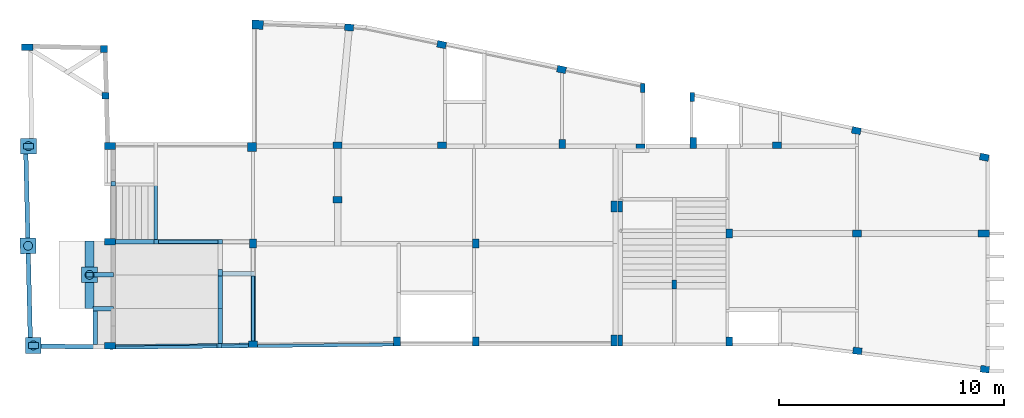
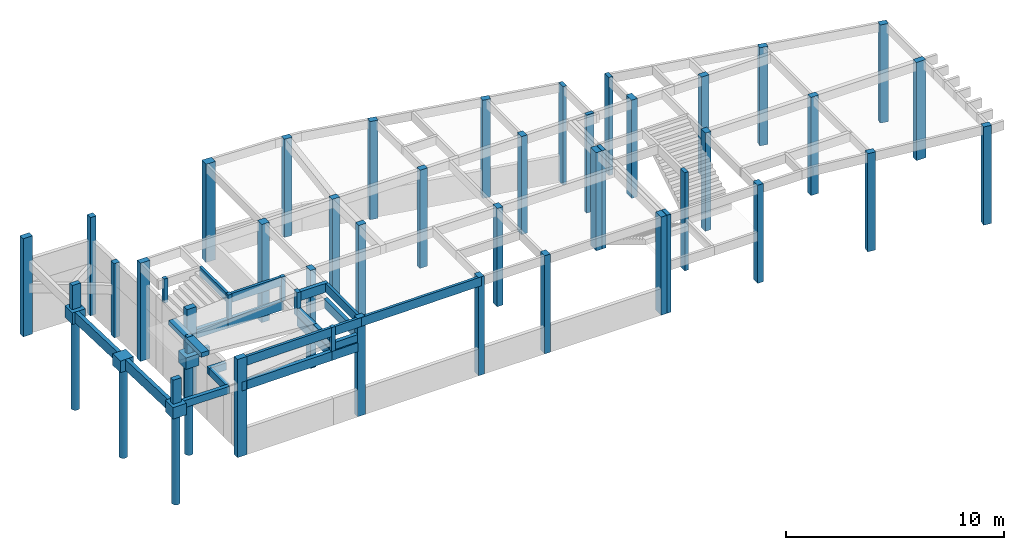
# One storey, part 1 of 8: 46 columns, 24 beams, 4 footings, 4 piles.
"""IFC4 building model written with IfcOpenShell, lengths in centimetres."""

from ifc_helpers import new_model, si_unit, derived_unit, frame, origin, origin_with_axes, origin_2d_with_axis, place, context, project, spatial, rectangle, circle, extrude, clip, halfspace, faceted_brep, material, element, save


model = new_model("IFC4")

# Units and contexts
model_context = context("Model", 3, precision=1e-05, world=origin_with_axes(), identifier="Body")
ifc_project = project(units=[si_unit("LENGTHUNIT", "METRE", prefix="CENTI"), si_unit("VOLUMEUNIT", "CUBIC_METRE"), si_unit("AREAUNIT", "SQUARE_METRE"), si_unit("POWERUNIT", "WATT"), si_unit("LUMINOUSFLUXUNIT", "LUMEN"), si_unit("ELECTRICCURRENTUNIT", "AMPERE"), si_unit("PRESSUREUNIT", "PASCAL", prefix="KILO"), si_unit("MASSUNIT", "GRAM", prefix="KILO"), si_unit("PLANEANGLEUNIT", "RADIAN"), derived_unit("VOLUMETRICFLOWRATEUNIT", [(si_unit("LENGTHUNIT", "METRE"), 3), (si_unit("TIMEUNIT", "SECOND"), -1)])], contexts=[model_context])

# Site, building, storey
site_placement = place(None, origin_with_axes())
site = spatial("IfcSite", under=ifc_project, at=site_placement)
building_placement = place(site_placement, origin())
building = spatial("IfcBuilding", under=site, at=building_placement)
placement = place(building_placement, origin_with_axes())
storey_placement = place(placement, frame((0.0, 0.0, 550.0), z_axis=(0.0, 0.0, 1.0), x_axis=(1.0, 0.0, 0.0)))
storey = spatial("IfcBuildingStorey", under=building, at=storey_placement, Name="TÉRREO", CompositionType="ELEMENT", Elevation=550.0)

# Footings
ifc_material = material(Name="Concreto")
for number, where, z_axis, x_axis, name in (
    (1, (30.0, -454.65, -135.0), (0.0, 0.0, 1.0), (1.0, 0.0, 0.0), "P.MURO3"),
    (2, (51.63, -1341.4, -135.0), (0.0, 0.0, 1.0), (1.0, 0.0, 0.0), "P.MURO4"),
):
    element("IfcFooting", number, at=place(storey_placement, frame(where, z_axis=z_axis, x_axis=x_axis)), inside=storey, material=ifc_material, Name=name, context=model_context, shape_type="SolidModel", body=[
        faceted_brep([(35.0, 35.0, -65.0), (35.0, -35.0, -65.0), (-35.0, -35.0, -65.0), (-35.0, 35.0, -65.0), (-35.0, 35.0, 0.0), (-35.0, -35.0, 0.0), (35.0, -35.0, 0.0), (35.0, 35.0, 0.0)], [[[0, 1, 2, 3]], [[4, 5, 6, 7]], [[4, 3, 5]], [[3, 2, 5]], [[5, 2, 6]], [[2, 1, 6]], [[6, 1, 7]], [[1, 0, 7]], [[7, 0, 4]], [[0, 3, 4]]]),
    ])
footing_1_placement = place(storey_placement, frame((28.17, -898.03, -135.0), z_axis=(0.0, 0.0, 1.0), x_axis=(1.0, 0.0, 0.0)))
element("IfcFooting", 3, at=footing_1_placement, inside=storey, material=ifc_material, Name="P.MURO6", context=model_context, shape_type="SolidModel", body=[
    faceted_brep([(-35.844678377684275, 34.13442590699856, -65.0), (34.134425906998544, 35.84467837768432, -65.0), (35.844678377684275, -34.13442590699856, -65.0), (-34.13442590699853, -35.84467837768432, -65.0), (-34.13442590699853, -35.84467837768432, 0.0), (35.844678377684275, -34.13442590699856, 0.0), (34.134425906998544, 35.84467837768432, 0.0), (-35.844678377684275, 34.13442590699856, 0.0)], [[[0, 1, 2, 3]], [[4, 5, 6, 7]], [[4, 3, 5]], [[3, 2, 5]], [[5, 2, 6]], [[2, 1, 6]], [[6, 1, 7]], [[1, 0, 7]], [[7, 0, 4]], [[0, 3, 4]]]),
])
footing_2_placement = place(storey_placement, frame((301.6, -1027.35, -135.0), z_axis=(0.0, 0.0, 1.0), x_axis=(1.0, 0.0, 0.0)))
element("IfcFooting", 4, at=footing_2_placement, inside=storey, material=ifc_material, Name="P.RAMPA5", context=model_context, shape_type="SolidModel", body=[
    faceted_brep([(35.0, 35.0, -65.0), (35.0, -35.0, -65.0), (-35.0, -35.0, -65.0), (-35.0, 35.0, -65.0), (-35.0, 35.0, 0.0), (-35.0, -35.0, 0.0), (35.0, -35.0, 0.0), (35.0, 35.0, 0.0)], [[[0, 1, 2, 3]], [[4, 5, 6, 7]], [[4, 3, 5]], [[3, 2, 5]], [[5, 2, 6]], [[2, 1, 6]], [[6, 1, 7]], [[1, 0, 7]], [[7, 0, 4]], [[0, 3, 4]]]),
])

# Piles
for number, where, z_axis, x_axis, name in (
    (5, (30.0, -454.65, -185.0), (0.0, 0.0, 1.0), (1.0, 0.0, 0.0), "E.MURO3-1"),
    (6, (51.63, -1341.4, -185.0), (0.0, 0.0, 1.0), (1.0, 0.0, 0.0), "E.MURO4-1"),
    (7, (28.17, -898.03, -185.0), (0.0, 0.0, 1.0), (1.0, 0.0, 0.0), "E.MURO6-1"),
    (8, (301.6, -1027.35, -185.0), (0.0, 0.0, 1.0), (1.0, 0.0, 0.0), "E.RAMPA5-1"),
):
    element("IfcPile", number, at=place(storey_placement, frame(where, z_axis=z_axis, x_axis=x_axis)), inside=storey, material=ifc_material, Name=name, context=model_context, shape_type="SweptSolid", body=[
        extrude(circle(Radius=20.0, at=origin_2d_with_axis()), frame((0.0, 0.0, -515.0), z_axis=(0.0, 0.0, 1.0), x_axis=(1.0, 0.0, 0.0)), (0.0, 0.0, 1.0), 515.0),
    ])

# Columns
column_1_placement = place(storey_placement, frame((25.0, -15.0, 0.0), z_axis=(0.0, 0.0, 1.0), x_axis=(1.0, 0.0, 0.0)))
element("IfcColumn", 9, at=column_1_placement, inside=storey, material=ifc_material, Name="P.MURO1", context=model_context, shape_type="SolidModel", body=[
    extrude(rectangle(XDim=30.0, YDim=50.0, at=origin_2d_with_axis()), frame((0.0, 0.0, 0.0), z_axis=(0.0, 0.0, 1.0), x_axis=(0.0, -1.0, 0.0)), (0.0, 0.0, -1.0), 550.0),
])
column_2_placement = place(storey_placement, frame((365.95, -22.8, 0.0), z_axis=(0.0, 0.0, 1.0), x_axis=(1.0, 0.0, 0.0)))
element("IfcColumn", 10, at=column_2_placement, inside=storey, material=ifc_material, Name="P.MURO2", context=model_context, shape_type="SolidModel", body=[
    extrude(rectangle(XDim=30.0, YDim=30.0, at=origin_2d_with_axis()), origin_with_axes(), (0.0, 0.0, -1.0), 550.0),
])
for number, where, z_axis, x_axis, name in (
    (11, (30.0, -454.65, 0.0), (0.0, 0.0, 1.0), (1.0, 0.0, 0.0), "P.MURO3"),
    (12, (51.63, -1341.4, 0.0), (0.0, 0.0, 1.0), (1.0, 0.0, 0.0), "P.MURO4"),
):
    element("IfcColumn", number, at=place(storey_placement, frame(where, z_axis=z_axis, x_axis=x_axis)), inside=storey, material=ifc_material, Name=name, context=model_context, shape_type="SolidModel", body=[
        extrude(rectangle(XDim=25.0, YDim=45.0, at=origin_2d_with_axis()), frame((0.0, 0.0, 0.0), z_axis=(0.0, 0.0, 1.0), x_axis=(0.0, -1.0, 0.0)), (0.0, 0.0, -1.0), 135.0),
    ])
column_3_placement = place(storey_placement, frame((372.23, -229.98, -135.0), z_axis=(0.0, 0.0, 1.0), x_axis=(1.0, 0.0, 0.0)))
element("IfcColumn", 13, at=column_3_placement, inside=storey, material=ifc_material, Name="P.MURO5", context=model_context, shape_type="SolidModel", body=[
    extrude(rectangle(XDim=30.0, YDim=30.0, at=origin_2d_with_axis()), frame((0.0, 0.0, 0.0), z_axis=(0.0, 0.0, 1.0), x_axis=(-1.0, 0.0, 0.0)), (0.0, 0.0, -1.0), 415.0),
])
for number, where, z_axis, x_axis, name in (
    (14, (599.5, -880.25, 0.0), (0.0, 0.0, 1.0), (1.0, 0.0, 0.0), "P.RAMPA1"),
    (15, (882.6, -880.25, 0.0), (0.0, 0.0, 1.0), (1.0, 0.0, 0.0), "P.RAMPA2"),
):
    element("IfcColumn", number, at=place(storey_placement, frame(where, z_axis=z_axis, x_axis=x_axis)), inside=storey, material=ifc_material, Name=name, context=model_context, shape_type="SolidModel", body=[
        extrude(rectangle(XDim=20.0, YDim=20.0, at=origin_2d_with_axis()), frame((0.0, 0.0, 0.0), z_axis=(0.0, 0.0, 1.0), x_axis=(0.0, -1.0, 0.0)), (0.0, 0.0, -1.0), 135.0),
    ])
column_4_placement = place(storey_placement, frame((882.6, -1017.9, 0.0), z_axis=(0.0, 0.0, 1.0), x_axis=(1.0, 0.0, 0.0)))
element("IfcColumn", 16, at=column_4_placement, inside=storey, material=ifc_material, Name="P.RAMPA3", context=model_context, shape_type="SolidModel", body=[
    extrude(rectangle(XDim=20.0, YDim=30.0, at=origin_2d_with_axis()), origin_with_axes(), (0.0, 0.0, -1.0), 135.0),
])
column_5_placement = place(storey_placement, frame((879.5752821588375, -1343.0605483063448, 0.0), z_axis=(0.0, 0.0, 1.0), x_axis=(1.0, 0.0, 0.0)))
element("IfcColumn", 17, at=column_5_placement, inside=storey, material=ifc_material, Name="P.RAMPA4", context=model_context, shape_type="SolidModel", body=[
    extrude(rectangle(XDim=20.0, YDim=20.0, at=origin_2d_with_axis()), frame((0.0, 0.0, 0.0), z_axis=(0.0, 0.0, 1.0), x_axis=(-0.010471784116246, 1.0, 0.0)), (0.0, 0.0, -1.0), 135.0),
])
column_6_placement = place(storey_placement, frame((301.6, -1027.35, -42.0), z_axis=(0.0, 0.0, 1.0), x_axis=(1.0, 0.0, 0.0)))
element("IfcColumn", 18, at=column_6_placement, inside=storey, material=ifc_material, Name="P.RAMPA5", context=model_context, shape_type="SolidModel", body=[
    extrude(rectangle(XDim=20.0, YDim=30.0, at=origin_2d_with_axis()), frame((0.0, 0.0, 0.0), z_axis=(0.0, 0.0, 1.0), x_axis=(0.0, -1.0, 0.0)), (0.0, 0.0, -1.0), 93.0),
])
column_7_placement = place(storey_placement, frame((1049.7503356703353, 85.74733940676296, 0.0), z_axis=(0.0, 0.0, 1.0), x_axis=(1.0, 0.0, 0.0)))
element("IfcColumn", 19, at=column_7_placement, inside=storey, material=ifc_material, Name="P1", context=model_context, shape_type="SolidModel", body=[
    extrude(rectangle(XDim=40.0, YDim=50.0, at=origin_2d_with_axis()), frame((0.0, 0.0, 0.0), z_axis=(0.0, 0.0, 1.0), x_axis=(-0.036643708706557, -0.999328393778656, 0.0)), (0.0, 0.0, -1.0), 550.0),
])
for number, where, z_axis, x_axis, name in (
    (20, (1406.0, -450.9, 0.0), (0.0, 0.0, 1.0), (1.0, 0.0, 0.0), "P10"),
    (21, (1871.0, -450.9, 0.0), (0.0, 0.0, 1.0), (1.0, 0.0, 0.0), "P11"),
):
    element("IfcColumn", number, at=place(storey_placement, frame(where, z_axis=z_axis, x_axis=x_axis)), inside=storey, material=ifc_material, Name=name, context=model_context, shape_type="SolidModel", body=[
        extrude(rectangle(XDim=30.0, YDim=40.0, at=origin_2d_with_axis()), frame((0.0, 0.0, 0.0), z_axis=(0.0, 0.0, 1.0), x_axis=(0.0, -1.0, 0.0)), (0.0, 0.0, -1.0), 550.0),
    ])
column_8_placement = place(storey_placement, frame((2404.5, -445.9, 0.0), z_axis=(0.0, 0.0, 1.0), x_axis=(1.0, 0.0, 0.0)))
element("IfcColumn", 22, at=column_8_placement, inside=storey, material=ifc_material, Name="P12", context=model_context, shape_type="SolidModel", body=[
    extrude(rectangle(XDim=30.0, YDim=40.0, at=origin_2d_with_axis()), origin_with_axes(), (0.0, 0.0, -1.0), 550.0),
])
column_9_placement = place(storey_placement, frame((2753.0, -455.9, 0.0), z_axis=(0.0, 0.0, 1.0), x_axis=(1.0, 0.0, 0.0)))
element("IfcColumn", 23, at=column_9_placement, inside=storey, material=ifc_material, Name="P13", context=model_context, shape_type="SolidModel", body=[
    extrude(rectangle(XDim=20.0, YDim=40.0, at=origin_2d_with_axis()), frame((0.0, 0.0, 0.0), z_axis=(0.0, 0.0, 1.0), x_axis=(0.0, -1.0, 0.0)), (0.0, 0.0, -1.0), 550.0),
])
column_10_placement = place(storey_placement, frame((2988.0, -440.9, 0.0), z_axis=(0.0, 0.0, 1.0), x_axis=(1.0, 0.0, 0.0)))
element("IfcColumn", 24, at=column_10_placement, inside=storey, material=ifc_material, Name="P14", context=model_context, shape_type="SolidModel", body=[
    extrude(rectangle(XDim=30.0, YDim=50.0, at=origin_2d_with_axis()), origin_with_axes(), (0.0, 0.0, -1.0), 550.0),
])
column_11_placement = place(storey_placement, frame((3361.6, -450.9, 0.0), z_axis=(0.0, 0.0, 1.0), x_axis=(1.0, 0.0, 0.0)))
element("IfcColumn", 25, at=column_11_placement, inside=storey, material=ifc_material, Name="P15", context=model_context, shape_type="SolidModel", body=[
    extrude(rectangle(XDim=30.0, YDim=40.0, at=origin_2d_with_axis()), frame((0.0, 0.0, 0.0), z_axis=(0.0, 0.0, 1.0), x_axis=(0.0, -1.0, 0.0)), (0.0, 0.0, -1.0), 550.0),
])
column_12_placement = place(storey_placement, frame((4282.95521144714, -504.19308979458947, 0.0), z_axis=(0.0, 0.0, 1.0), x_axis=(1.0, 0.0, 0.0)))
element("IfcColumn", 26, at=column_12_placement, inside=storey, material=ifc_material, Name="P16", context=model_context, shape_type="SolidModel", body=[
    extrude(rectangle(XDim=30.0, YDim=40.0, at=origin_2d_with_axis()), frame((0.0, 0.0, 0.0), z_axis=(0.0, 0.0, 1.0), x_axis=(-0.204496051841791, -0.978867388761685, 0.0)), (0.0, 0.0, -1.0), 550.0),
])
column_13_placement = place(storey_placement, frame((407.75, -622.85, 0.0), z_axis=(0.0, 0.0, 1.0), x_axis=(1.0, 0.0, 0.0)))
element("IfcColumn", 27, at=column_13_placement, inside=storey, material=ifc_material, Name="P17", context=model_context, shape_type="SolidModel", body=[
    extrude(rectangle(XDim=20.0, YDim=20.0, at=origin_2d_with_axis()), origin_with_axes(), (0.0, 0.0, -1.0), 135.0),
])
column_14_placement = place(storey_placement, frame((1406.0, -692.9, 0.0), z_axis=(0.0, 0.0, 1.0), x_axis=(1.0, 0.0, 0.0)))
element("IfcColumn", 28, at=column_14_placement, inside=storey, material=ifc_material, Name="P18", context=model_context, shape_type="SolidModel", body=[
    extrude(rectangle(XDim=30.0, YDim=40.0, at=origin_2d_with_axis()), frame((0.0, 0.0, 0.0), z_axis=(0.0, 0.0, 1.0), x_axis=(0.0, 1.0, 0.0)), (0.0, 0.0, -1.0), 550.0),
])
column_15_placement = place(storey_placement, frame((2636.6, -723.1, 0.0), z_axis=(0.0, 0.0, 1.0), x_axis=(1.0, 0.0, 0.0)))
element("IfcColumn", 29, at=column_15_placement, inside=storey, material=ifc_material, Name="P19", context=model_context, shape_type="SolidModel", body=[
    extrude(rectangle(XDim=30.0, YDim=50.0, at=origin_2d_with_axis()), origin_with_axes(), (0.0, 0.0, -1.0), 550.0),
])
column_16_placement = place(storey_placement, frame((1456.6687461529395, 73.3548205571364, 0.0), z_axis=(0.0, 0.0, 1.0), x_axis=(1.0, 0.0, 0.0)))
element("IfcColumn", 30, at=column_16_placement, inside=storey, material=ifc_material, Name="P2", context=model_context, shape_type="SolidModel", body=[
    extrude(rectangle(XDim=30.0, YDim=40.0, at=origin_2d_with_axis()), frame((0.0, 0.0, 0.0), z_axis=(0.0, 0.0, 1.0), x_axis=(-0.085416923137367, -0.996345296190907, 0.0)), (0.0, 0.0, -1.0), 550.0),
])
column_17_placement = place(storey_placement, frame((2663.6, -723.1, 0.0), z_axis=(0.0, 0.0, 1.0), x_axis=(1.0, 0.0, 0.0)))
element("IfcColumn", 31, at=column_17_placement, inside=storey, material=ifc_material, Name="P20", context=model_context, shape_type="SolidModel", body=[
    extrude(rectangle(XDim=20.0, YDim=50.0, at=origin_2d_with_axis()), frame((0.0, 0.0, 0.0), z_axis=(0.0, 0.0, 1.0), x_axis=(-1.0, 0.0, 0.0)), (0.0, 0.0, -1.0), 550.0),
])
column_18_placement = place(storey_placement, frame((392.75, -879.9, -1.45), z_axis=(0.0, 0.0, 1.0), x_axis=(1.0, 0.0, 0.0)))
element("IfcColumn", 32, at=column_18_placement, inside=storey, material=ifc_material, Name="P21", context=model_context, shape_type="SolidModel", body=[
    extrude(rectangle(XDim=30.0, YDim=50.0, at=origin_2d_with_axis()), frame((0.0, 0.0, 0.0), z_axis=(0.0, 0.0, 1.0), x_axis=(0.0, -1.0, 0.0)), (0.0, 0.0, -1.0), 548.55),
])
column_19_placement = place(storey_placement, frame((1029.5, -888.4, 0.0), z_axis=(0.0, 0.0, 1.0), x_axis=(1.0, 0.0, 0.0)))
element("IfcColumn", 33, at=column_19_placement, inside=storey, material=ifc_material, Name="P22", context=model_context, shape_type="SolidModel", body=[
    extrude(rectangle(XDim=30.0, YDim=40.0, at=origin_2d_with_axis()), frame((0.0, 0.0, 0.0), z_axis=(0.0, 0.0, 1.0), x_axis=(1.0, -0.003490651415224, 0.0)), (0.0, 0.0, -1.0), 550.0),
])
for number, where, z_axis, x_axis, name in (
    (34, (2019.6, -888.4, 0.0), (0.0, 0.0, 1.0), (1.0, 0.0, 0.0), "P23"),
    (35, (3148.6, -843.6, 0.0), (0.0, 0.0, 1.0), (1.0, 0.0, 0.0), "P24"),
):
    element("IfcColumn", number, at=place(storey_placement, frame(where, z_axis=z_axis, x_axis=x_axis)), inside=storey, material=ifc_material, Name=name, context=model_context, shape_type="SolidModel", body=[
        extrude(rectangle(XDim=30.0, YDim=40.0, at=origin_2d_with_axis()), origin_with_axes(), (0.0, 0.0, -1.0), 550.0),
    ])
column_20_placement = place(storey_placement, frame((3716.6, -843.1, 0.0), z_axis=(0.0, 0.0, 1.0), x_axis=(1.0, 0.0, 0.0)))
element("IfcColumn", 36, at=column_20_placement, inside=storey, material=ifc_material, Name="P25", context=model_context, shape_type="SolidModel", body=[
    extrude(rectangle(XDim=30.0, YDim=40.0, at=origin_2d_with_axis()), frame((0.0, 0.0, 0.0), z_axis=(0.0, 0.0, 1.0), x_axis=(0.0, -1.0, 0.0)), (0.0, 0.0, -1.0), 550.0),
])
column_21_placement = place(storey_placement, frame((4280.6, -843.1, 0.0), z_axis=(0.0, 0.0, 1.0), x_axis=(1.0, 0.0, 0.0)))
element("IfcColumn", 37, at=column_21_placement, inside=storey, material=ifc_material, Name="P26", context=model_context, shape_type="SolidModel", body=[
    extrude(rectangle(XDim=30.0, YDim=50.0, at=origin_2d_with_axis()), frame((0.0, 0.0, 0.0), z_axis=(0.0, 0.0, 1.0), x_axis=(0.0, -1.0, 0.0)), (0.0, 0.0, -1.0), 550.0),
])
column_22_placement = place(storey_placement, frame((2903.6, -1070.1, 0.0), z_axis=(0.0, 0.0, 1.0), x_axis=(1.0, 0.0, 0.0)))
element("IfcColumn", 38, at=column_22_placement, inside=storey, material=ifc_material, Name="P27", context=model_context, shape_type="SolidModel", body=[
    extrude(rectangle(XDim=20.0, YDim=40.0, at=origin_2d_with_axis()), frame((0.0, 0.0, 0.0), z_axis=(0.0, 0.0, 1.0), x_axis=(-1.0, 0.0, 0.0)), (0.0, 0.0, -1.0), 550.0),
])
column_23_placement = place(storey_placement, frame((392.75, -1343.2, 0.0), z_axis=(0.0, 0.0, 1.0), x_axis=(1.0, 0.0, 0.0)))
element("IfcColumn", 39, at=column_23_placement, inside=storey, material=ifc_material, Name="P28", context=model_context, shape_type="SolidModel", body=[
    extrude(rectangle(XDim=30.0, YDim=50.0, at=origin_2d_with_axis()), frame((0.0, 0.0, 0.0), z_axis=(0.0, 0.0, 1.0), x_axis=(0.0, -1.0, 0.0)), (0.0, 0.0, -1.0), 550.0),
])
column_24_placement = place(storey_placement, frame((1029.7, -1336.0, 0.0), z_axis=(0.0, 0.0, 1.0), x_axis=(1.0, 0.0, 0.0)))
element("IfcColumn", 40, at=column_24_placement, inside=storey, material=ifc_material, Name="P29", context=model_context, shape_type="SolidModel", body=[
    extrude(rectangle(XDim=30.0, YDim=40.0, at=origin_2d_with_axis()), frame((0.0, 0.0, 0.0), z_axis=(0.0, 0.0, 1.0), x_axis=(0.0, -1.0, 0.0)), (0.0, 0.0, -1.0), 550.0),
])
column_25_placement = place(storey_placement, frame((1868.373734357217, -3.042596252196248, 0.0), z_axis=(0.0, 0.0, 1.0), x_axis=(1.0, 0.0, 0.0)))
element("IfcColumn", 41, at=column_25_placement, inside=storey, material=ifc_material, Name="P3", context=model_context, shape_type="SolidModel", body=[
    extrude(rectangle(XDim=30.0, YDim=40.0, at=origin_2d_with_axis()), frame((0.0, 0.0, 0.0), z_axis=(0.0, 0.0, 1.0), x_axis=(-0.202787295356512, -0.979222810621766, 0.0)), (0.0, 0.0, -1.0), 550.0),
])
column_26_placement = place(storey_placement, frame((1669.6, -1324.1, 0.0), z_axis=(0.0, 0.0, 1.0), x_axis=(1.0, 0.0, 0.0)))
element("IfcColumn", 42, at=column_26_placement, inside=storey, material=ifc_material, Name="P30", context=model_context, shape_type="SolidModel", body=[
    extrude(rectangle(XDim=30.0, YDim=40.0, at=origin_2d_with_axis()), frame((0.0, 0.0, 0.0), z_axis=(0.0, 0.0, 1.0), x_axis=(-1.0, 0.0, 0.0)), (0.0, 0.0, -1.0), 550.0),
])
column_27_placement = place(storey_placement, frame((2019.6, -1324.1, 0.0), z_axis=(0.0, 0.0, 1.0), x_axis=(1.0, 0.0, 0.0)))
element("IfcColumn", 43, at=column_27_placement, inside=storey, material=ifc_material, Name="P31", context=model_context, shape_type="SolidModel", body=[
    extrude(rectangle(XDim=30.0, YDim=40.0, at=origin_2d_with_axis()), origin_with_axes(), (0.0, 0.0, -1.0), 550.0),
])
column_28_placement = place(storey_placement, frame((2636.6, -1319.1, 0.0), z_axis=(0.0, 0.0, 1.0), x_axis=(1.0, 0.0, 0.0)))
element("IfcColumn", 44, at=column_28_placement, inside=storey, material=ifc_material, Name="P32", context=model_context, shape_type="SolidModel", body=[
    extrude(rectangle(XDim=30.0, YDim=50.0, at=origin_2d_with_axis()), frame((0.0, 0.0, 0.0), z_axis=(0.0, 0.0, 1.0), x_axis=(-1.0, 0.0, 0.0)), (0.0, 0.0, -1.0), 550.0),
])
column_29_placement = place(storey_placement, frame((2663.6, -1319.1, 0.0), z_axis=(0.0, 0.0, 1.0), x_axis=(1.0, 0.0, 0.0)))
element("IfcColumn", 45, at=column_29_placement, inside=storey, material=ifc_material, Name="P33", context=model_context, shape_type="SolidModel", body=[
    extrude(rectangle(XDim=20.0, YDim=50.0, at=origin_2d_with_axis()), origin_with_axes(), (0.0, 0.0, -1.0), 550.0),
])
column_30_placement = place(storey_placement, frame((3148.6, -1324.1, 0.0), z_axis=(0.0, 0.0, 1.0), x_axis=(1.0, 0.0, 0.0)))
element("IfcColumn", 46, at=column_30_placement, inside=storey, material=ifc_material, Name="P34", context=model_context, shape_type="SolidModel", body=[
    extrude(rectangle(XDim=30.0, YDim=40.0, at=origin_2d_with_axis()), origin_with_axes(), (0.0, 0.0, -1.0), 550.0),
])
for number, where, z_axis, x_axis, name in (
    (47, (3718.4799985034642, -1365.6582794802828, 0.0), (0.0, 0.0, 1.0), (1.0, 0.0, 0.0), "P35"),
    (48, (4285.887704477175, -1447.0816148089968, 0.0), (0.0, 0.0, 1.0), (1.0, 0.0, 0.0), "P36"),
):
    element("IfcColumn", number, at=place(storey_placement, frame(where, z_axis=z_axis, x_axis=x_axis)), inside=storey, material=ifc_material, Name=name, context=model_context, shape_type="SolidModel", body=[
        extrude(rectangle(XDim=30.0, YDim=40.0, at=origin_2d_with_axis()), frame((0.0, 0.0, 0.0), z_axis=(0.0, 0.0, 1.0), x_axis=(0.125333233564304, 0.992114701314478, 0.0)), (0.0, 0.0, -1.0), 550.0),
    ])
column_31_placement = place(storey_placement, frame((2401.7325592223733, -113.76301083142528, 0.0), z_axis=(0.0, 0.0, 1.0), x_axis=(1.0, 0.0, 0.0)))
element("IfcColumn", 49, at=column_31_placement, inside=storey, material=ifc_material, Name="P4", context=model_context, shape_type="SolidModel", body=[
    extrude(rectangle(XDim=30.0, YDim=40.0, at=origin_2d_with_axis()), frame((0.0, 0.0, 0.0), z_axis=(0.0, 0.0, 1.0), x_axis=(-0.204496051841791, -0.978867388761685, 0.0)), (0.0, 0.0, -1.0), 550.0),
])
for number, where, z_axis, x_axis, name in (
    (50, (2763.0, -195.49, 0.0), (0.0, 0.0, 1.0), (1.0, 0.0, 0.0), "P5"),
    (51, (2983.0, -237.0, 0.0), (0.0, 0.0, 1.0), (1.0, 0.0, 0.0), "P6"),
):
    element("IfcColumn", number, at=place(storey_placement, frame(where, z_axis=z_axis, x_axis=x_axis)), inside=storey, material=ifc_material, Name=name, context=model_context, shape_type="SolidModel", body=[
        extrude(rectangle(XDim=20.0, YDim=40.0, at=origin_2d_with_axis()), origin_with_axes(), (0.0, 0.0, -1.0), 550.0),
    ])
column_32_placement = place(storey_placement, frame((3713.532559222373, -386.0330108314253, 0.0), z_axis=(0.0, 0.0, 1.0), x_axis=(1.0, 0.0, 0.0)))
element("IfcColumn", 52, at=column_32_placement, inside=storey, material=ifc_material, Name="P7", context=model_context, shape_type="SolidModel", body=[
    extrude(rectangle(XDim=30.0, YDim=40.0, at=origin_2d_with_axis()), frame((0.0, 0.0, 0.0), z_axis=(0.0, 0.0, 1.0), x_axis=(-0.204496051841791, -0.978867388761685, 0.0)), (0.0, 0.0, -1.0), 550.0),
])
column_33_placement = place(storey_placement, frame((392.75, -453.8, 0.0), z_axis=(0.0, 0.0, 1.0), x_axis=(1.0, 0.0, 0.0)))
element("IfcColumn", 53, at=column_33_placement, inside=storey, material=ifc_material, Name="P8", context=model_context, shape_type="SolidModel", body=[
    extrude(rectangle(XDim=30.0, YDim=50.0, at=origin_2d_with_axis()), frame((0.0, 0.0, 0.0), z_axis=(0.0, 0.0, 1.0), x_axis=(0.0, -1.0, 0.0)), (0.0, 0.0, -1.0), 550.0),
])
column_34_placement = place(storey_placement, frame((1025.0, -458.8, 0.0), z_axis=(0.0, 0.0, 1.0), x_axis=(1.0, 0.0, 0.0)))
element("IfcColumn", 54, at=column_34_placement, inside=storey, material=ifc_material, Name="P9", context=model_context, shape_type="SolidModel", body=[
    extrude(rectangle(XDim=40.0, YDim=40.0, at=origin_2d_with_axis()), frame((0.0, 0.0, 0.0), z_axis=(0.0, 0.0, 1.0), x_axis=(0.0, -1.0, 0.0)), (0.0, 0.0, -1.0), 550.0),
])

# Beams
beam_1_placement = place(storey_placement, frame((22.86711005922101, -677.4698104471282, -135.0), z_axis=(0.0, 0.0, 1.0), x_axis=(1.0, 0.0, 0.0)))
element("IfcBeam", 55, at=beam_1_placement, inside=storey, material=ifc_material, Name="V.MURO1", context=model_context, shape_type="SolidModel", body=[
    extrude(rectangle(XDim=20.0, YDim=60.0, at=origin_2d_with_axis()), frame((5.062889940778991, -210.56018955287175, -30.0), z_axis=(-0.024037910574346, 0.999711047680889, 0.0), x_axis=(0.999711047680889, 0.024037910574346, 0.0)), (0.0, 0.0, 1.0), 421.24209798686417),
])
beam_2_placement = place(storey_placement, frame((33.76767779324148, -1130.8448075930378, -135.0), z_axis=(0.0, 0.0, 1.0), x_axis=(1.0, 0.0, 0.0)))
element("IfcBeam", 56, at=beam_2_placement, inside=storey, material=ifc_material, Name="V.MURO1", context=model_context, shape_type="SolidModel", body=[
    extrude(rectangle(XDim=20.0, YDim=60.0, at=origin_2d_with_axis()), frame((5.357677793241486, -222.81480759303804, -30.0), z_axis=(-0.024038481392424, 0.999711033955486, 0.0), x_axis=(0.999711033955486, 0.024038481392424, 0.0)), (0.0, 0.0, 1.0), 445.75842423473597),
])
beam_3_placement = place(storey_placement, frame((964.65, -1022.9, 0.0), z_axis=(0.0, 0.0, 1.0), x_axis=(1.0, 0.0, 0.0)))
element("IfcBeam", 57, at=beam_3_placement, inside=storey, material=ifc_material, Name="V.RAMPA1", context=model_context, shape_type="SolidModel", body=[
    extrude(rectangle(XDim=20.0, YDim=50.0, at=origin_2d_with_axis()), frame((-72.05, 0.0, -25.0), z_axis=(1.0, 0.0, 0.0), x_axis=(0.0, -1.0, 0.0)), (0.0, 0.0, 1.0), 144.1),
])
beam_4_placement = place(storey_placement, frame((362.175, -1177.85, -135.0), z_axis=(0.0, 0.0, 1.0), x_axis=(1.0, 0.0, 0.0)))
element("IfcBeam", 58, at=beam_4_placement, inside=storey, material=ifc_material, Name="V.RAMPA10", context=model_context, shape_type="SolidModel", body=[
    extrude(rectangle(XDim=20.0, YDim=40.0, at=origin_2d_with_axis()), frame((-45.575, 0.0, -20.0), z_axis=(1.0, 0.0, 0.0), x_axis=(0.0, -1.0, 0.0)), (0.0, 0.0, 1.0), 91.15),
])
beam_5_placement = place(storey_placement, frame((941.269029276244, -1341.9560034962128, -135.0), z_axis=(0.0, 0.0, 1.0), x_axis=(1.0, 0.0, 0.0)))
element("IfcBeam", 59, at=beam_5_placement, inside=storey, material=ifc_material, Name="V.RAMPA11", context=model_context, shape_type="Clipping", body=[
    clip(extrude(rectangle(XDim=20.0, YDim=50.0, at=origin_2d_with_axis()), frame((-68.78805855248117, -0.817420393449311, -25.0), z_axis=(1.0, 0.011902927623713, 0.0), x_axis=(0.011902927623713, -1.0, 0.0)), (0.0, 0.0, 1.0), 137.3477885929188), halfspace(frame((-68.66902927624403, 9.184704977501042, 0.0), z_axis=(1.0, 0.0, 0.0), x_axis=(0.0, 0.0, 0.011902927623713)), True)),
])
beam_6_placement = place(storey_placement, frame((200.28678245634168, -1346.2237762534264, -135.0), z_axis=(0.0, 0.0, 1.0), x_axis=(1.0, 0.0, 0.0)))
element("IfcBeam", 60, at=beam_6_placement, inside=storey, material=ifc_material, Name="V.RAMPA11", context=model_context, shape_type="SolidModel", body=[
    extrude(rectangle(XDim=20.0, YDim=40.0, at=origin_2d_with_axis()), frame((-126.31321754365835, 1.976223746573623, -20.0), z_axis=(0.999877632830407, -0.015643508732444, 0.0), x_axis=(-0.015643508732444, -0.999877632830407, 0.0)), (0.0, 0.0, 1.0), 252.65735205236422),
])
beam_7_placement = place(storey_placement, frame((637.7065982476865, -1345.5760212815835, -135.0), z_axis=(0.0, 0.0, 1.0), x_axis=(1.0, 0.0, 0.0)))
element("IfcBeam", 61, at=beam_7_placement, inside=storey, material=ifc_material, Name="V.RAMPA11", context=model_context, shape_type="SolidModel", body=[
    extrude(rectangle(XDim=20.0, YDim=50.0, at=origin_2d_with_axis()), frame((-244.8934017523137, -2.921463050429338, -25.0), z_axis=(1.0, 0.01192868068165, 0.0), x_axis=(0.01192868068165, -1.0, 0.0)), (0.0, 0.0, 1.0), 489.8216539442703),
])
beam_8_placement = place(storey_placement, frame((326.6, -1263.025, -135.0), z_axis=(0.0, 0.0, 1.0), x_axis=(1.0, 0.0, 0.0)))
element("IfcBeam", 62, at=beam_8_placement, inside=storey, material=ifc_material, Name="V.RAMPA12", context=model_context, shape_type="SolidModel", body=[
    extrude(rectangle(XDim=20.0, YDim=40.0, at=origin_2d_with_axis()), frame((0.0, -75.175, -20.0), z_axis=(0.0, 1.0, 0.0), x_axis=(1.0, 0.0, 0.0)), (0.0, 0.0, 1.0), 150.35),
])
beam_9_placement = place(storey_placement, frame((882.6, -1182.8356492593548, -135.0), z_axis=(0.0, 0.0, 1.0), x_axis=(1.0, 0.0, 0.0)))
element("IfcBeam", 63, at=beam_9_placement, inside=storey, material=ifc_material, Name="V.RAMPA13", context=model_context, shape_type="Clipping", body=[
    clip(extrude(rectangle(XDim=20.0, YDim=50.0, at=origin_2d_with_axis()), frame((0.0, -149.9356492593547, -25.0), z_axis=(0.0, 1.0, 0.0), x_axis=(1.0, 0.0, 0.0)), (0.0, 0.0, 1.0), 299.8712985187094), halfspace(frame((-10.0, -149.9356492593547, 0.0), z_axis=(-0.01190292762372, 1.0, 0.0), x_axis=(0.0, 0.0, -0.01190292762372)), True)),
])
for number, where, z_axis, x_axis in (
    (64, (301.6, -952.1, -42.0), (0.0, 0.0, 1.0), (1.0, 0.0, 0.0)),
    (65, (301.6, -1102.6, -42.0), (0.0, 0.0, 1.0), (1.0, 0.0, 0.0)),
):
    element("IfcBeam", number, at=place(storey_placement, frame(where, z_axis=z_axis, x_axis=x_axis)), inside=storey, material=ifc_material, Name="V.RAMPA3", context=model_context, shape_type="SolidModel", body=[
        extrude(rectangle(XDim=40.0, YDim=25.0, at=origin_2d_with_axis()), frame((0.0, -75.25, -12.5), z_axis=(0.0, 1.0, 0.0), x_axis=(1.0, 0.0, 0.0)), (0.0, 0.0, 1.0), 150.5),
    ])
beam_10_placement = place(storey_placement, frame((949.6897481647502, -1341.9791067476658, -89.0), z_axis=(0.0, 0.0, 1.0), x_axis=(1.0, 0.0, 0.0)))
element("IfcBeam", 66, at=beam_10_placement, inside=storey, material=ifc_material, Name="V.RAMPA5", context=model_context, shape_type="SolidModel", body=[
    extrude(rectangle(XDim=20.0, YDim=40.0, at=origin_2d_with_axis()), frame((-60.173386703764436, -0.981768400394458, -20.0), z_axis=(0.999866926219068, 0.016313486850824, 0.0), x_axis=(0.016313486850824, -0.999866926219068, 0.0)), (0.0, 0.0, 1.0), 120.36279053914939),
])
beam_11_placement = place(storey_placement, frame((882.6, -1255.4915238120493, -89.0), z_axis=(0.0, 0.0, 1.0), x_axis=(1.0, 0.0, 0.0)))
element("IfcBeam", 67, at=beam_11_placement, inside=storey, material=ifc_material, Name="V.RAMPA6", context=model_context, shape_type="SolidModel", body=[
    extrude(rectangle(XDim=20.0, YDim=40.0, at=origin_2d_with_axis()), frame((0.0, -77.64152381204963, -20.0), z_axis=(0.0, 1.0, 0.0), x_axis=(1.0, 0.0, 0.0)), (0.0, 0.0, 1.0), 155.28304762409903),
])
beam_12_placement = place(storey_placement, frame((882.6, -1105.375, -89.0), z_axis=(0.0, 0.0, 1.0), x_axis=(1.0, 0.0, 0.0)))
element("IfcBeam", 68, at=beam_12_placement, inside=storey, material=ifc_material, Name="V.RAMPA6", context=model_context, shape_type="SolidModel", body=[
    extrude(rectangle(XDim=20.0, YDim=40.0, at=origin_2d_with_axis()), frame((0.0, -72.475, -20.0), z_axis=(0.0, 1.0, 0.0), x_axis=(1.0, 0.0, 0.0)), (0.0, 0.0, 1.0), 144.95),
])
beam_13_placement = place(storey_placement, frame((1029.5, -1171.95, -89.0), z_axis=(0.0, 0.0, 1.0), x_axis=(1.0, 0.0, 0.0)))
element("IfcBeam", 69, at=beam_13_placement, inside=storey, material=ifc_material, Name="V.RAMPA7", context=model_context, shape_type="SolidModel", body=[
    extrude(rectangle(XDim=20.0, YDim=50.0, at=origin_2d_with_axis()), frame((0.0, -149.05, -25.0), z_axis=(0.0, 1.0, 0.0), x_axis=(1.0, 0.0, 0.0)), (0.0, 0.0, 1.0), 298.1),
])
beam_14_placement = place(storey_placement, frame((503.625, -879.9, -135.0), z_axis=(0.0, 0.0, 1.0), x_axis=(1.0, 0.0, 0.0)))
element("IfcBeam", 70, at=beam_14_placement, inside=storey, material=ifc_material, Name="V.RAMPA8", context=model_context, shape_type="SolidModel", body=[
    extrude(rectangle(XDim=20.0, YDim=50.0, at=origin_2d_with_axis()), frame((-85.875, 0.0, -25.0), z_axis=(1.0, 0.0, 0.0), x_axis=(0.0, -1.0, 0.0)), (0.0, 0.0, 1.0), 171.75),
])
beam_15_placement = place(storey_placement, frame((736.05, -879.9, -135.0), z_axis=(0.0, 0.0, 1.0), x_axis=(1.0, 0.0, 0.0)))
element("IfcBeam", 71, at=beam_15_placement, inside=storey, material=ifc_material, Name="V.RAMPA8", context=model_context, shape_type="SolidModel", body=[
    extrude(rectangle(XDim=20.0, YDim=50.0, at=origin_2d_with_axis()), frame((-146.55, 0.0, -25.0), z_axis=(1.0, 0.0, 0.0), x_axis=(0.0, -1.0, 0.0)), (0.0, 0.0, 1.0), 293.1),
])
beam_16_placement = place(storey_placement, frame((362.175, -1027.35, -135.0), z_axis=(0.0, 0.0, 1.0), x_axis=(1.0, 0.0, 0.0)))
element("IfcBeam", 72, at=beam_16_placement, inside=storey, material=ifc_material, Name="V.RAMPA9", context=model_context, shape_type="SolidModel", body=[
    extrude(rectangle(XDim=20.0, YDim=40.0, at=origin_2d_with_axis()), frame((-45.575, 0.0, -20.0), z_axis=(1.0, 0.0, 0.0), x_axis=(0.0, -1.0, 0.0)), (0.0, 0.0, 1.0), 91.15),
])
beam_17_placement = place(storey_placement, frame((959.7017855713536, -1345.1678949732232, 0.0), z_axis=(0.0, 0.0, 1.0), x_axis=(1.0, 0.0, 0.0)))
element("IfcBeam", 73, at=beam_17_placement, inside=storey, material=ifc_material, Name="V18", context=model_context, shape_type="SolidModel", body=[
    extrude(rectangle(XDim=14.0, YDim=50.0, at=origin_2d_with_axis()), frame((70.09178557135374, 0.78210502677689, -25.0), z_axis=(-1.0, -0.011157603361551, 0.0), x_axis=(0.011157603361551, -1.0, 0.0)), (0.0, 0.0, 1.0), 140.19229783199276),
])
beam_18_placement = place(storey_placement, frame((1349.7698414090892, -1340.8214811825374, 0.0), z_axis=(0.0, 0.0, 1.0), x_axis=(1.0, 0.0, 0.0)))
element("IfcBeam", 74, at=beam_18_placement, inside=storey, material=ifc_material, Name="V18", context=model_context, shape_type="SolidModel", body=[
    extrude(rectangle(XDim=14.0, YDim=50.0, at=origin_2d_with_axis()), frame((319.976590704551, 3.559997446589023, -25.0), z_axis=(-1.0, -0.011125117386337, 0.0), x_axis=(0.011125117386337, -1.0, 0.0)), (0.0, 0.0, 1.0), 639.9927880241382),
])
beam_19_placement = place(storey_placement, frame((643.6605212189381, -1348.685216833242, 0.0), z_axis=(0.0, 0.0, 1.0), x_axis=(1.0, 0.0, 0.0)))
element("IfcBeam", 75, at=beam_19_placement, inside=storey, material=ifc_material, Name="V18", context=model_context, shape_type="SolidModel", body=[
    extrude(rectangle(XDim=14.0, YDim=50.0, at=origin_2d_with_axis()), frame((225.94947878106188, 2.515216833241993, -25.0), z_axis=(-1.0, -0.011131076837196, 0.0), x_axis=(0.011131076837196, -1.0, 0.0)), (0.0, 0.0, 1.0), 451.926955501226),
])
beam_20_placement = place(storey_placement, frame((596.5, -748.05, 0.0), z_axis=(0.0, 0.0, 1.0), x_axis=(1.0, 0.0, 0.0)))
element("IfcBeam", 76, at=beam_20_placement, inside=storey, material=ifc_material, Name="V22", context=model_context, shape_type="SolidModel", body=[
    extrude(rectangle(XDim=14.0, YDim=50.0, at=origin_2d_with_axis()), frame((0.0, -122.2, -25.0), z_axis=(0.0, 1.0, 0.0), x_axis=(1.0, 0.0, 0.0)), (0.0, 0.0, 1.0), 244.4),
])
beam_21_placement = place(storey_placement, frame((1029.7, -1171.95, 0.0), z_axis=(0.0, 0.0, 1.0), x_axis=(1.0, 0.0, 0.0)))
element("IfcBeam", 77, at=beam_21_placement, inside=storey, material=ifc_material, Name="V23", context=model_context, shape_type="SolidModel", body=[
    extrude(rectangle(XDim=14.0, YDim=50.0, at=origin_2d_with_axis()), frame((0.0, -149.05, -25.0), z_axis=(0.0, 1.0, 0.0), x_axis=(1.0, 0.0, 0.0)), (0.0, 0.0, 1.0), 298.1),
])
beam_22_placement = place(storey_placement, frame((741.05, -880.25, 0.0), z_axis=(0.0, 0.0, 1.0), x_axis=(1.0, 0.0, 0.0)))
element("IfcBeam", 78, at=beam_22_placement, inside=storey, material=ifc_material, Name="V8", context=model_context, shape_type="SolidModel", body=[
    extrude(rectangle(XDim=14.0, YDim=50.0, at=origin_2d_with_axis()), frame((-131.55, 0.0, -25.0), z_axis=(1.0, 0.0, 0.0), x_axis=(0.0, -1.0, 0.0)), (0.0, 0.0, 1.0), 263.1),
])

save(model, "model.ifc")
